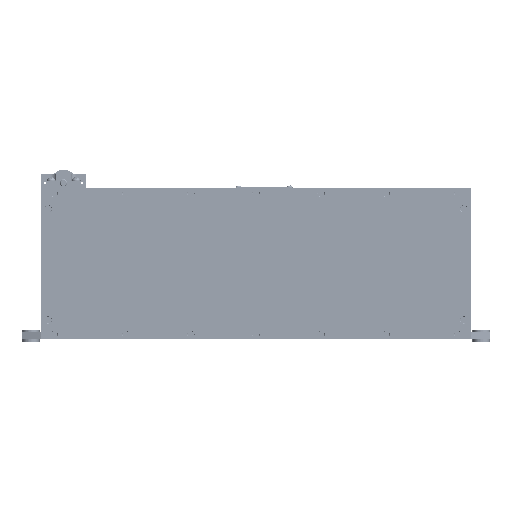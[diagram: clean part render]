
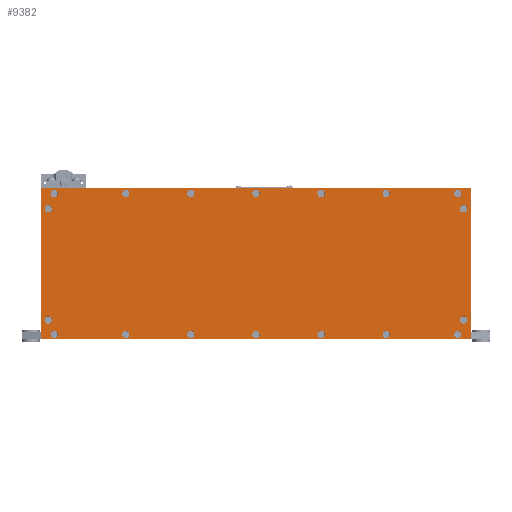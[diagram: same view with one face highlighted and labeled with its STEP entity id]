
A CAD part, top view. The second image highlights one B-rep face of the part: STEP entity #9382.
In plain terms, the highlighted planar face has unit normal (0, 0, 1).
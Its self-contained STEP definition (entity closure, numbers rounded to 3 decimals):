
#9382=ADVANCED_FACE('',(#177923,#177925,#177927,#177929,#177931,#177933,#177935,
#177937,#177939,#177941,#177943,#177945,#177947,#177949,#177951,#177953,#177955,
#177957,#177959),#177961,.T.);
#177923=FACE_BOUND('',#177924,.T.);
#177924=EDGE_LOOP('',(#327819,#327820,#327821,#327822));
#177925=FACE_BOUND('',#177926,.T.);
#177926=EDGE_LOOP('',(#327823));
#177927=FACE_BOUND('',#177928,.T.);
#177928=EDGE_LOOP('',(#327824));
#177929=FACE_BOUND('',#177930,.T.);
#177930=EDGE_LOOP('',(#327825));
#177931=FACE_BOUND('',#177932,.T.);
#177932=EDGE_LOOP('',(#327826));
#177933=FACE_BOUND('',#177934,.T.);
#177934=EDGE_LOOP('',(#327827));
#177935=FACE_BOUND('',#177936,.T.);
#177936=EDGE_LOOP('',(#327828));
#177937=FACE_BOUND('',#177938,.T.);
#177938=EDGE_LOOP('',(#327829));
#177939=FACE_BOUND('',#177940,.T.);
#177940=EDGE_LOOP('',(#327830));
#177941=FACE_BOUND('',#177942,.T.);
#177942=EDGE_LOOP('',(#327831));
#177943=FACE_BOUND('',#177944,.T.);
#177944=EDGE_LOOP('',(#327832));
#177945=FACE_BOUND('',#177946,.T.);
#177946=EDGE_LOOP('',(#327833));
#177947=FACE_BOUND('',#177948,.T.);
#177948=EDGE_LOOP('',(#327834));
#177949=FACE_BOUND('',#177950,.T.);
#177950=EDGE_LOOP('',(#327835));
#177951=FACE_BOUND('',#177952,.T.);
#177952=EDGE_LOOP('',(#327836));
#177953=FACE_BOUND('',#177954,.T.);
#177954=EDGE_LOOP('',(#327837));
#177955=FACE_BOUND('',#177956,.T.);
#177956=EDGE_LOOP('',(#327838));
#177957=FACE_BOUND('',#177958,.T.);
#177958=EDGE_LOOP('',(#327839));
#177959=FACE_BOUND('',#177960,.T.);
#177960=EDGE_LOOP('',(#327840));
#177961=PLANE('',#177962);
#177962=AXIS2_PLACEMENT_3D('',#177963,#177964,#177965);
#177963=CARTESIAN_POINT('',(145.,51.,150.));
#177964=DIRECTION('',(0.,0.,1.));
#177965=DIRECTION('',(1.,0.,0.));
#327819=ORIENTED_EDGE('',*,*,#427266,.T.);
#327820=ORIENTED_EDGE('',*,*,#417923,.T.);
#327821=ORIENTED_EDGE('',*,*,#427285,.T.);
#327822=ORIENTED_EDGE('',*,*,#416761,.T.);
#327823=ORIENTED_EDGE('',*,*,#427286,.T.);
#327824=ORIENTED_EDGE('',*,*,#427287,.T.);
#327825=ORIENTED_EDGE('',*,*,#427288,.T.);
#327826=ORIENTED_EDGE('',*,*,#427289,.T.);
#327827=ORIENTED_EDGE('',*,*,#427290,.T.);
#327828=ORIENTED_EDGE('',*,*,#427291,.T.);
#327829=ORIENTED_EDGE('',*,*,#427292,.T.);
#327830=ORIENTED_EDGE('',*,*,#427293,.T.);
#327831=ORIENTED_EDGE('',*,*,#427294,.T.);
#327832=ORIENTED_EDGE('',*,*,#427295,.T.);
#327833=ORIENTED_EDGE('',*,*,#427296,.T.);
#327834=ORIENTED_EDGE('',*,*,#427297,.T.);
#327835=ORIENTED_EDGE('',*,*,#427298,.T.);
#327836=ORIENTED_EDGE('',*,*,#427299,.T.);
#327837=ORIENTED_EDGE('',*,*,#427300,.T.);
#327838=ORIENTED_EDGE('',*,*,#427301,.T.);
#327839=ORIENTED_EDGE('',*,*,#427302,.T.);
#327840=ORIENTED_EDGE('',*,*,#427303,.T.);
#416761=EDGE_CURVE('',#468947,#468945,#468948,.T.);
#417923=EDGE_CURVE('',#471240,#471238,#471241,.T.);
#427266=EDGE_CURVE('',#468945,#471240,#489522,.T.);
#427285=EDGE_CURVE('',#471238,#468947,#489556,.T.);
#427286=EDGE_CURVE('',#489557,#489557,#489558,.F.);
#427287=EDGE_CURVE('',#489559,#489559,#489560,.F.);
#427288=EDGE_CURVE('',#489561,#489561,#489562,.F.);
#427289=EDGE_CURVE('',#489563,#489563,#489564,.F.);
#427290=EDGE_CURVE('',#489565,#489565,#489566,.F.);
#427291=EDGE_CURVE('',#489567,#489567,#489568,.F.);
#427292=EDGE_CURVE('',#489569,#489569,#489570,.F.);
#427293=EDGE_CURVE('',#489571,#489571,#489572,.F.);
#427294=EDGE_CURVE('',#489573,#489573,#489574,.F.);
#427295=EDGE_CURVE('',#489575,#489575,#489576,.F.);
#427296=EDGE_CURVE('',#489577,#489577,#489578,.F.);
#427297=EDGE_CURVE('',#489579,#489579,#489580,.F.);
#427298=EDGE_CURVE('',#489581,#489581,#489582,.F.);
#427299=EDGE_CURVE('',#489583,#489583,#489584,.F.);
#427300=EDGE_CURVE('',#489585,#489585,#489586,.F.);
#427301=EDGE_CURVE('',#489587,#489587,#489588,.F.);
#427302=EDGE_CURVE('',#489589,#489589,#489590,.F.);
#427303=EDGE_CURVE('',#489591,#489591,#489592,.F.);
#468945=VERTEX_POINT('',#559802);
#468947=VERTEX_POINT('',#559806);
#468948=LINE('',#559807,#559808);
#471238=VERTEX_POINT('',#565219);
#471240=VERTEX_POINT('',#565223);
#471241=LINE('',#565224,#565225);
#489522=LINE('',#608664,#608665);
#489556=LINE('',#608747,#608748);
#489557=VERTEX_POINT('',#608750);
#489558=CIRCLE('',#608751,2.5);
#489559=VERTEX_POINT('',#608755);
#489560=CIRCLE('',#608756,2.5);
#489561=VERTEX_POINT('',#608760);
#489562=CIRCLE('',#608761,2.5);
#489563=VERTEX_POINT('',#608765);
#489564=CIRCLE('',#608766,2.5);
#489565=VERTEX_POINT('',#608770);
#489566=CIRCLE('',#608771,2.5);
#489567=VERTEX_POINT('',#608775);
#489568=CIRCLE('',#608776,2.5);
#489569=VERTEX_POINT('',#608780);
#489570=CIRCLE('',#608781,2.5);
#489571=VERTEX_POINT('',#608785);
#489572=CIRCLE('',#608786,2.5);
#489573=VERTEX_POINT('',#608790);
#489574=CIRCLE('',#608791,2.5);
#489575=VERTEX_POINT('',#608795);
#489576=CIRCLE('',#608796,2.5);
#489577=VERTEX_POINT('',#608800);
#489578=CIRCLE('',#608801,2.5);
#489579=VERTEX_POINT('',#608805);
#489580=CIRCLE('',#608806,2.5);
#489581=VERTEX_POINT('',#608810);
#489582=CIRCLE('',#608811,2.5);
#489583=VERTEX_POINT('',#608815);
#489584=CIRCLE('',#608816,2.5);
#489585=VERTEX_POINT('',#608820);
#489586=CIRCLE('',#608821,2.5);
#489587=VERTEX_POINT('',#608825);
#489588=CIRCLE('',#608826,2.5);
#489589=VERTEX_POINT('',#608830);
#489590=CIRCLE('',#608831,2.5);
#489591=VERTEX_POINT('',#608835);
#489592=CIRCLE('',#608836,2.5);
#559802=CARTESIAN_POINT('',(-2.,103.,150.));
#559806=CARTESIAN_POINT('',(292.,103.,150.));
#559807=CARTESIAN_POINT('',(292.,103.,150.));
#559808=VECTOR('',#559809,1.);
#559809=DIRECTION('',(-1.,0.,0.));
#565219=CARTESIAN_POINT('',(292.,0.,150.));
#565223=CARTESIAN_POINT('',(-2.,0.,150.));
#565224=CARTESIAN_POINT('',(-2.,0.,150.));
#565225=VECTOR('',#565226,1.);
#565226=DIRECTION('',(1.,0.,0.));
#608664=CARTESIAN_POINT('',(-2.,103.,150.));
#608665=VECTOR('',#608666,1.);
#608666=DIRECTION('',(0.,-1.,0.));
#608747=CARTESIAN_POINT('',(292.,0.,150.));
#608748=VECTOR('',#608749,1.);
#608749=DIRECTION('',(0.,1.,0.));
#608750=CARTESIAN_POINT('',(53.5,99.5,150.));
#608751=AXIS2_PLACEMENT_3D('',#608752,#608753,#608754);
#608752=CARTESIAN_POINT('',(56.,99.5,150.));
#608753=DIRECTION('',(0.,0.,1.));
#608754=DIRECTION('',(-1.,0.,0.));
#608755=CARTESIAN_POINT('',(4.5,99.5,150.));
#608756=AXIS2_PLACEMENT_3D('',#608757,#608758,#608759);
#608757=CARTESIAN_POINT('',(7.,99.5,150.));
#608758=DIRECTION('',(0.,0.,1.));
#608759=DIRECTION('',(-1.,0.,0.));
#608760=CARTESIAN_POINT('',(280.5,99.5,150.));
#608761=AXIS2_PLACEMENT_3D('',#608762,#608763,#608764);
#608762=CARTESIAN_POINT('',(283.,99.5,150.));
#608763=DIRECTION('',(0.,0.,1.));
#608764=DIRECTION('',(-1.,0.,0.));
#608765=CARTESIAN_POINT('',(231.5,99.5,150.));
#608766=AXIS2_PLACEMENT_3D('',#608767,#608768,#608769);
#608767=CARTESIAN_POINT('',(234.,99.5,150.));
#608768=DIRECTION('',(0.,0.,1.));
#608769=DIRECTION('',(-1.,0.,0.));
#608770=CARTESIAN_POINT('',(187.,99.5,150.));
#608771=AXIS2_PLACEMENT_3D('',#608772,#608773,#608774);
#608772=CARTESIAN_POINT('',(189.5,99.5,150.));
#608773=DIRECTION('',(0.,0.,1.));
#608774=DIRECTION('',(-1.,0.,0.));
#608775=CARTESIAN_POINT('',(142.5,99.5,150.));
#608776=AXIS2_PLACEMENT_3D('',#608777,#608778,#608779);
#608777=CARTESIAN_POINT('',(145.,99.5,150.));
#608778=DIRECTION('',(0.,0.,1.));
#608779=DIRECTION('',(-1.,0.,0.));
#608780=CARTESIAN_POINT('',(98.,99.5,150.));
#608781=AXIS2_PLACEMENT_3D('',#608782,#608783,#608784);
#608782=CARTESIAN_POINT('',(100.5,99.5,150.));
#608783=DIRECTION('',(0.,0.,1.));
#608784=DIRECTION('',(-1.,0.,0.));
#608785=CARTESIAN_POINT('',(98.,3.,150.));
#608786=AXIS2_PLACEMENT_3D('',#608787,#608788,#608789);
#608787=CARTESIAN_POINT('',(100.5,3.,150.));
#608788=DIRECTION('',(0.,0.,1.));
#608789=DIRECTION('',(-1.,0.,0.));
#608790=CARTESIAN_POINT('',(142.5,3.,150.));
#608791=AXIS2_PLACEMENT_3D('',#608792,#608793,#608794);
#608792=CARTESIAN_POINT('',(145.,3.,150.));
#608793=DIRECTION('',(0.,0.,1.));
#608794=DIRECTION('',(-1.,0.,0.));
#608795=CARTESIAN_POINT('',(187.,3.,150.));
#608796=AXIS2_PLACEMENT_3D('',#608797,#608798,#608799);
#608797=CARTESIAN_POINT('',(189.5,3.,150.));
#608798=DIRECTION('',(0.,0.,1.));
#608799=DIRECTION('',(-1.,0.,0.));
#608800=CARTESIAN_POINT('',(231.5,3.,150.));
#608801=AXIS2_PLACEMENT_3D('',#608802,#608803,#608804);
#608802=CARTESIAN_POINT('',(234.,3.,150.));
#608803=DIRECTION('',(0.,0.,1.));
#608804=DIRECTION('',(-1.,0.,0.));
#608805=CARTESIAN_POINT('',(280.5,3.,150.));
#608806=AXIS2_PLACEMENT_3D('',#608807,#608808,#608809);
#608807=CARTESIAN_POINT('',(283.,3.,150.));
#608808=DIRECTION('',(0.,0.,1.));
#608809=DIRECTION('',(-1.,0.,0.));
#608810=CARTESIAN_POINT('',(0.5,89.,150.));
#608811=AXIS2_PLACEMENT_3D('',#608812,#608813,#608814);
#608812=CARTESIAN_POINT('',(3.,89.,150.));
#608813=DIRECTION('',(0.,0.,1.));
#608814=DIRECTION('',(-1.,0.,0.));
#608815=CARTESIAN_POINT('',(284.5,13.,150.));
#608816=AXIS2_PLACEMENT_3D('',#608817,#608818,#608819);
#608817=CARTESIAN_POINT('',(287.,13.,150.));
#608818=DIRECTION('',(0.,0.,1.));
#608819=DIRECTION('',(-1.,0.,0.));
#608820=CARTESIAN_POINT('',(284.5,89.,150.));
#608821=AXIS2_PLACEMENT_3D('',#608822,#608823,#608824);
#608822=CARTESIAN_POINT('',(287.,89.,150.));
#608823=DIRECTION('',(0.,0.,1.));
#608824=DIRECTION('',(-1.,0.,0.));
#608825=CARTESIAN_POINT('',(0.5,13.,150.));
#608826=AXIS2_PLACEMENT_3D('',#608827,#608828,#608829);
#608827=CARTESIAN_POINT('',(3.,13.,150.));
#608828=DIRECTION('',(0.,0.,1.));
#608829=DIRECTION('',(-1.,0.,0.));
#608830=CARTESIAN_POINT('',(4.5,3.,150.));
#608831=AXIS2_PLACEMENT_3D('',#608832,#608833,#608834);
#608832=CARTESIAN_POINT('',(7.,3.,150.));
#608833=DIRECTION('',(0.,0.,1.));
#608834=DIRECTION('',(-1.,0.,0.));
#608835=CARTESIAN_POINT('',(53.5,3.,150.));
#608836=AXIS2_PLACEMENT_3D('',#608837,#608838,#608839);
#608837=CARTESIAN_POINT('',(56.,3.,150.));
#608838=DIRECTION('',(0.,0.,1.));
#608839=DIRECTION('',(-1.,0.,0.));
